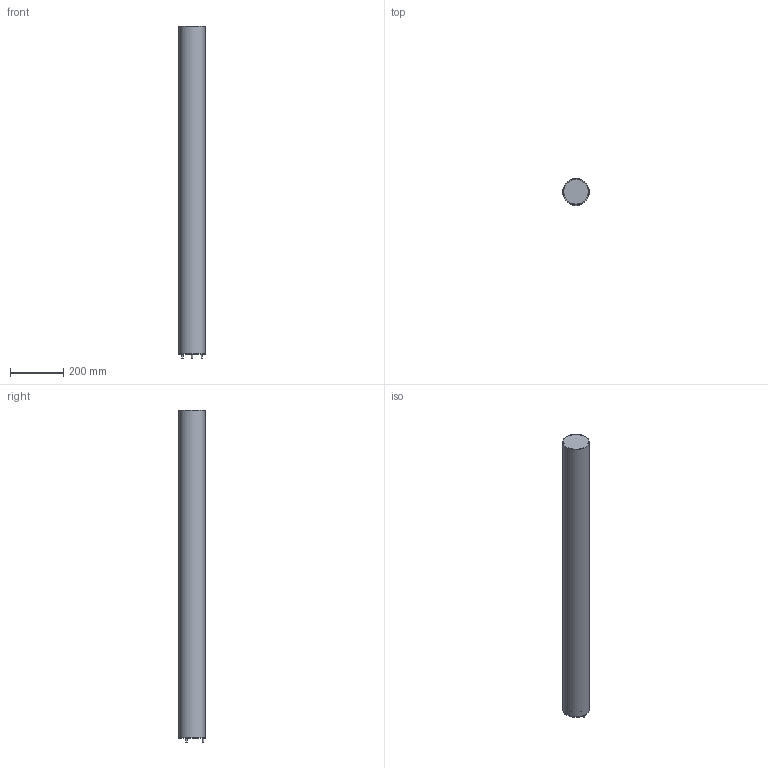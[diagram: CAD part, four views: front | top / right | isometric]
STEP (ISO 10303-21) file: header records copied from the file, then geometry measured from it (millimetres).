
FILE_DESCRIPTION(/* description */ (''),/* implementation_level */ '2;1');
FILE_NAME(/* name */ 'Light Stick Sahara 125.step',/* time_stamp */ '2022-12-22T11:28:36+01:00',/* author */ (''),/* organization */ (''),/* preprocessor_version */ 'ST-DEVELOPER v19.2',/* originating_system */ 'Autodesk Translation Framework v11.17.0.187',/* authorisation */ '');
FILE_SCHEMA (('AUTOMOTIVE_DESIGN { 1 0 10303 214 3 1 1 }'));
Length unit declared in the file: millimetre
Products named in the file (4): Light Stick Sahara 125; Fuß Light Star/Stick Modell; Rohr Light Stick Sahara 125 mit Deckel; Deckel Light Stick
Assembly tree (3 placements, depth 3):
  Light Stick Sahara 125
    Fuß Light Star/Stick Modell
    Rohr Light Stick Sahara 125 mit Deckel
      Deckel Light Stick
Bounding box: 100 x 100 x 1251 mm (x, y, z)
Volume: 1324276.9 mm3; surface area: 793394.2 mm2
Topology: 3 solids, 3 shells, 21 faces, 29 edges, 19 vertices
Faces by surface type: plane 11, cylinder 9, cone 1
Full cylindrical faces by diameter (mm): 5 x3, 93 x1, 94 x2, 100 x3
Entity records: 585 total; most frequent: DIRECTION 104, CARTESIAN_POINT 76, ORIENTED_EDGE 58, AXIS2_PLACEMENT_3D 47, EDGE_CURVE 29, EDGE_LOOP 28, FACE_OUTER_BOUND 21, ADVANCED_FACE 21
